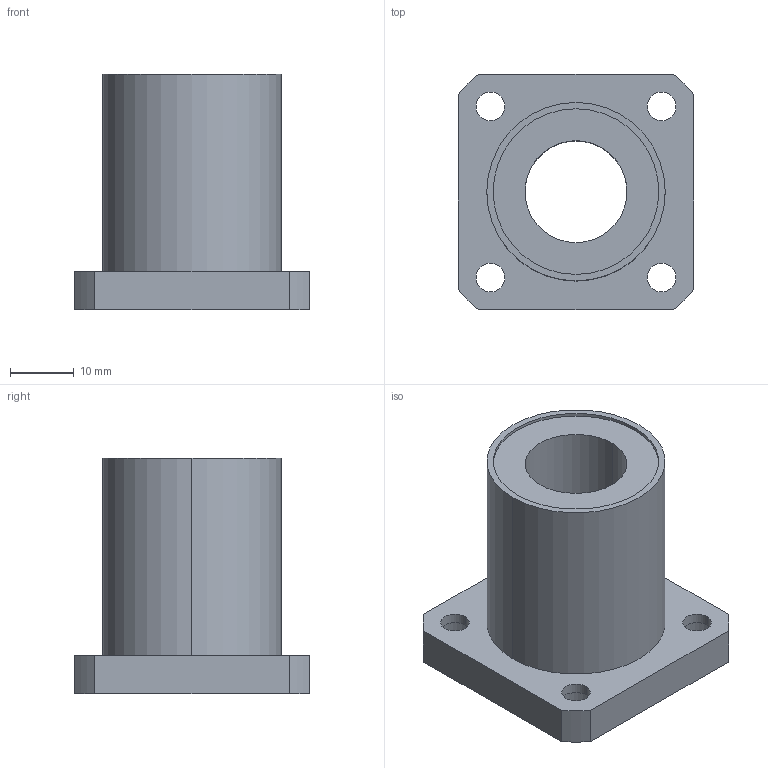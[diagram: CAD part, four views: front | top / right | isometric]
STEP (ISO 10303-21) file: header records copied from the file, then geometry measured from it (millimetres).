
FILE_DESCRIPTION((''),'2;1');
FILE_NAME('C:\Documents and Settings\ｿﾀﾀ蠑ｷ1\ｹﾙﾅﾁ ﾈｭｸ饅\ｺﾎﾇｰﾆﾄﾀﾏ\ﾁｦﾇｰ\LMK__UU\LMK16UU.stp','2005-06-15T09:48:08',('ｿﾀﾀ蠑ｷ1'),(''),'Autodesk Inventor 9','Autodesk Inventor 9','');
FILE_SCHEMA(('AUTOMOTIVE_DESIGN { 1 0 10303 214 1 1 1 1 }'));
Length unit declared in the file: millimetre
Products named in the file (1): LMK__
Bounding box: 37 x 37 x 37 mm (x, y, z)
Volume: 18223.4 mm3; surface area: 8182.8 mm2
Topology: 1 solids, 1 shells, 44 faces, 102 edges, 68 vertices
Faces by surface type: cylinder 30, plane 14
Entity records: 1329 total; most frequent: DIRECTION 252, CARTESIAN_POINT 215, ORIENTED_EDGE 204, AXIS2_PLACEMENT_3D 105, EDGE_CURVE 102, VERTEX_POINT 68, EDGE_LOOP 62, CIRCLE 60
